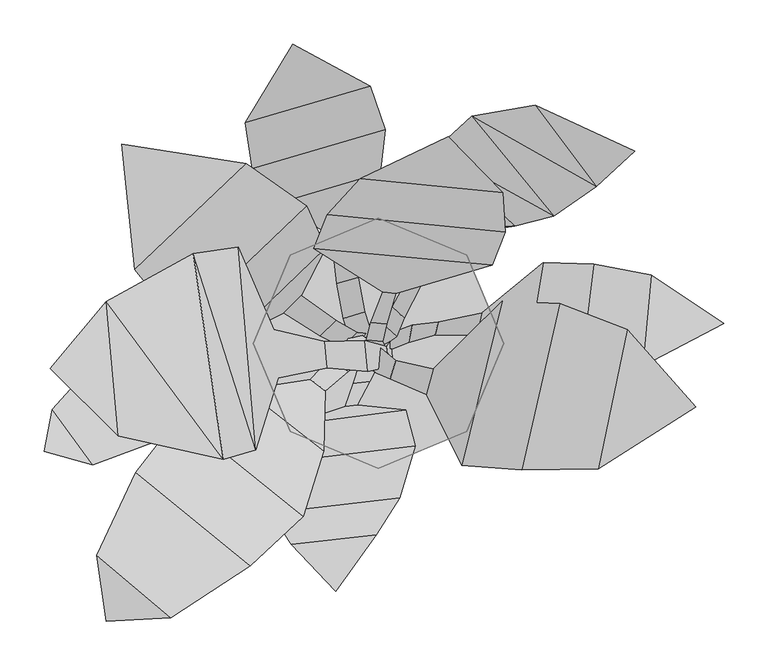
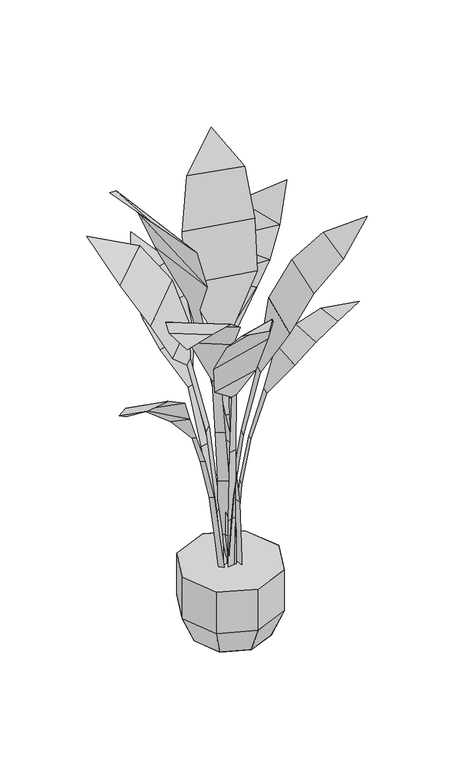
"""IFC4 building model written with IfcOpenShell, lengths in millimetres: geographic element geometry, Enscape AssetDefinition - Potted Plant 119 Strelitzia Nicolai : Enscape AssetDefinition - Potted Plant 119 Strelitzia Nicolai 4."""

from ifc_helpers import new_model, si_unit, origin, place, context, project, spatial, triangles, source, transform, mapped, element, save


def geographic_element_a0fb3aef(model_context):
    return source(origin(), model_context, "Body", "Tessellation", [
        triangles([(-35.7844527, -4.039384, 185.1010563), (-378.3896579, -122.8680817, 865.0391321), (-5.4514109, 10.4274022, 187.9342954), (-290.8632598, 225.5526206, 1182.0705803), (-15.8369637, -7.0802211, 190.397608), (-97.0054797, 338.5925958, 1060.5148458), (5.734318, -3.2500886, 190.2812634), (290.1710419, 217.3123351, 1159.4211634), (3.3346262, -5.2923794, 188.1276521), (390.875233, 22.1228684, 865.5354681), (-16.7559949, -17.4707972, 184.3904347), (-48.4173617, -280.9339059, 1109.8269522), (-4.3038769, -7.0057281, 197.7121688), (-308.0586674, -315.0049367, 1163.7217003), (14.4550679, 4.472115, 185.5003052), (-371.2868211, -28.7896081, 1500.0000114), (6.9923353, -18.3245401, 176.6539883), (78.7880688, 234.0859115, 1385.9874939), (-7.1965652, -0.0309692, 182.1782332), (359.2892249, -72.5800129, 1197.5870024), (75.3245493, -75.3245493, 0.0), (106.5255654, 0.0, 0.0), (0.0, -106.5255654, 0.0), (100.1023837, -100.1023837, 208.9791228), (0.0, -141.5667586, 80.9165726), (141.5667586, 0.0, 208.9791228), (100.1023837, -100.1023837, 80.9165726), (0.0, 141.5667586, 208.9791228), (0.0, -141.5667586, 208.9791228), (100.1023837, 100.1023837, 208.9791228), (141.5667586, 0.0, 80.9165726), (100.1023837, 100.1023837, 80.9165726), (0.0, 141.5667586, 80.9165726), (75.3245493, 75.3245493, 0.0), (0.0, 106.5255654, 0.0), (-100.1023837, 100.1023837, 208.9791228), (-141.5667586, 0.0, 208.9791228), (-75.3245493, 75.3245493, 0.0), (-106.5255654, 0.0, 0.0), (-100.1023837, 100.1023837, 80.9165726), (-75.3245493, -75.3245493, 0.0), (-100.1023837, -100.1023837, 80.9165726), (-141.5667586, 0.0, 80.9165726), (-100.1023837, -100.1023837, 208.9791228), (248.5426236, -142.2187991, 1144.9175428), (281.4343841, 15.7047157, 1122.6984776), (204.9631433, 44.8416806, 1045.5015907), (162.1721324, -143.3127549, 1068.6664558), (140.3430688, 47.6816417, 949.5397156), (94.1420825, -138.6815968, 966.8548651), (61.9307992, -28.9854673, 809.588447), (19.5524244, -19.7633513, 619.7139902), (53.7900943, -58.0638432, 810.0479393), (-0.6352865, -2.3385906, 435.5101539), (-9.0697816, -31.1323839, 434.1374906), (13.5201345, -40.5804899, 619.1933098), (-17.1719862, -24.5660832, 261.2040237), (-4.8454193, 17.1686355, 264.914444), (-20.596172, 186.4159833, 1298.9949841), (140.6351749, 170.3396208, 1282.8533821), (143.7597116, 125.9825718, 1146.1806925), (-58.2680686, 145.514074, 1164.4941822), (-73.4103174, 107.0403232, 1027.8181498), (128.9229719, 88.2855632, 1012.2706976), (4.9425121, 57.6771435, 845.6717823), (19.3925572, 56.4048965, 844.8414551), (-8.5416315, 23.5005755, 648.8517466), (9.2857278, 22.0132185, 648.2909523), (-13.731058, 3.4099561, 479.0243946), (4.7575335, 1.9225995, 478.9072143), (-19.3883741, -8.6646697, 301.3701766), (-10.5445826, -16.9585499, 176.1040764), (10.4968736, -11.0183284, 301.8640237), (-294.43895, -105.4065022, 1431.5990993), (-308.0770529, 46.9057352, 1438.1128006), (-175.7182169, -131.8390821, 1308.4247864), (-138.7602893, -121.2124778, 1181.5959), (-209.9391659, 101.5119088, 1298.6569233), (-113.2031919, -39.6187754, 1052.6160547), (-158.6249107, 108.9394896, 1172.759012), (-57.8495667, -28.2681555, 815.4843081), (-60.7280247, 1.8430839, 814.6137943), (-118.4018209, 15.6519845, 1050.7176968), (-11.9842294, -32.2045863, 594.52265), (-15.3833054, 2.8625555, 593.7459532), (11.9214551, -26.9096947, 404.0572409), (17.7126895, -28.0681087, 184.5980165), (9.6037902, -3.5246259, 403.935882), (-235.1999605, -311.0409345, 1182.8321617), (-318.714594, -240.6279359, 1174.3390755), (-274.6086561, -146.3075576, 1136.1650974), (-145.1826171, -252.5125302, 1148.3886246), (-84.9802326, -196.0072038, 1084.6415709), (-61.8922977, -121.8795791, 977.0412346), (-150.9177685, -52.2441494, 971.9347149), (-225.5116166, -82.7755525, 1072.7510176), (-60.2969691, -54.2353796, 822.5544434), (-34.151456, -32.1100018, 638.9424677), (-77.1517315, -41.17895, 821.8605904), (-53.9717283, -16.7894741, 638.2595152), (-15.0962136, -19.0904, 474.4551968), (8.9676666, -11.9850685, 294.2070964), (-27.349959, 16.0244523, 293.4931139), (-38.4411038, -1.0161234, 473.4766954), (-2.3603528, -217.377629, 1093.3045595), (-98.8686381, -228.08457, 1079.7910675), (24.0680667, -175.132297, 1051.2023329), (-121.9381693, -192.144449, 1031.7085373), (41.8368359, -116.4381962, 953.9917694), (30.6753782, -75.7037185, 837.7377462), (-127.3954398, -136.544736, 932.0815516), (-24.2321169, -70.0639737, 776.3602427), (-99.7391337, -92.3483875, 824.0309521), (-37.5731335, -71.8099655, 775.14818), (-9.6925123, -43.2999188, 585.6462296), (-28.5510621, -45.8201365, 584.3278871), (1.4178858, -21.6516331, 358.2529873), (-21.6148053, -24.8021176, 357.4478039), (0.6093393, -15.075288, 184.5025826), (308.8278791, 77.3969655, 839.7223635), (299.0885027, -25.9571865, 864.4507959), (243.8880567, 89.8114239, 804.4316397), (227.8610916, -39.0546292, 833.3493513), (186.5314741, 91.0978915, 760.429529), (164.328269, -42.3741895, 786.0535463), (116.6081167, 33.9882438, 682.8567204), (111.4990445, 8.7408381, 686.4023615), (67.7161792, 24.1760384, 558.7532853), (38.4377565, 20.8648488, 434.0579896), (64.5288646, 9.4907946, 560.2599157), (34.0786384, 0.8462116, 436.0492561), (20.3258169, 13.6900471, 293.7952756), (7.7280626, 14.0499577, 187.7518211), (15.7725134, -6.5880625, 294.6548707), (177.5613094, 269.3380476, 1103.9728764), (105.6383376, 257.2600239, 1013.2465828), (246.4392272, 177.1419672, 1059.5162876), (198.4947882, 143.8325179, 988.7132692), (63.4482893, 218.8909088, 931.9860632), (70.8348569, 132.0809913, 813.2863317), (154.2540838, 132.6501426, 925.2180897), (35.4345854, 77.3676704, 656.3605179), (48.4575391, 65.8387729, 657.7650106), (82.3938897, 121.3087473, 813.6227938), (15.5147143, 40.8952055, 502.033637), (3.0793397, 23.5733953, 325.1009411), (29.4048072, 28.4137885, 503.0112662), (-8.935861, 10.1570494, 190.5398958), (20.5015875, 7.6996044, 325.0757973), (-150.7210781, 249.7512707, 973.7175276), (-9.5452, 291.3252956, 969.6889944), (-142.9436368, 197.6552682, 891.1661711), (7.8042299, 242.0382786, 886.8515362), (-115.4229238, 158.251605, 810.6657068), (1.8137888, 192.7194685, 807.2263819), (-53.2159106, 121.6577722, 694.5455418), (-46.9819024, 67.5663564, 539.4687066), (-37.1906192, 126.3475023, 694.0290762), (-40.0757787, 28.2807093, 399.1925305), (-15.4067426, 35.5341932, 398.5229493), (-22.7907964, 74.6432227, 538.6843795), (-31.475552, 1.6430399, 257.9011911), (-6.8969173, 8.9760356, 257.7706032), (-275.8038774, 83.3321682, 1109.4008881), (-149.4329209, 203.1058621, 1117.2277359), (-223.724589, 18.7003552, 1005.4190083), (-59.4264781, 107.5065375, 903.3680426), (-80.9425248, 155.3538895, 1015.5108341), (-107.4454402, 34.1832673, 834.5938974), (-87.1422191, 53.7172744, 836.1875502), (-167.5373391, 3.4375775, 894.7704569), (-66.0689505, 7.9013232, 628.9728727), (-47.6314131, 25.5010166, 629.9715036), (-41.2819006, -4.4453307, 378.7252842), (-24.022028, 12.0302659, 379.6828202), (-27.4445389, -10.5956412, 186.4243403), (-323.6704688, -137.9542611, 872.0590525), (-245.7294595, -109.1705075, 858.0837427), (-317.5402471, -17.9236153, 806.0889513), (-369.1323741, -75.0617246, 835.5908569), (-185.9522761, -89.7980345, 819.939632), (-262.0786796, -0.4185023, 770.9305595), (-147.2592255, -48.5311992, 730.672261), (-112.620633, -20.608728, 643.9268291), (-181.9982479, -11.4276228, 712.2958391), (-83.2986946, -16.2437487, 557.4634295), (-120.4934991, -13.0555962, 641.1471296), (-92.6915533, -7.6226003, 555.2596395), (-55.1468792, -13.857447, 433.737406), (-65.6261768, -4.3942738, 432.0014291), (-38.6687698, -13.6900471, 293.1357229), (-48.1026507, -5.2337893, 292.0861321), (-23.4905311, -15.10542, 186.883869)], [[193, 1, 192], [191, 193, 192], [191, 192, 190], [189, 191, 190], [189, 190, 188], [186, 189, 188], [186, 188, 187], [184, 186, 187], [184, 187, 185], [183, 184, 185], [183, 185, 182], [181, 183, 182], [181, 182, 179], [178, 181, 179], [178, 179, 180], [177, 178, 180], [177, 180, 2], [176, 3, 175], [174, 176, 175], [174, 175, 173], [172, 174, 173], [172, 173, 170], [169, 172, 170], [170, 167, 171], [171, 169, 170], [171, 167, 168], [166, 171, 168], [166, 168, 165], [164, 166, 165], [164, 165, 4], [162, 5, 163], [162, 163, 160], [159, 162, 160], [159, 160, 161], [157, 159, 161], [157, 161, 158], [156, 157, 158], [156, 158, 155], [154, 156, 155], [154, 155, 153], [152, 154, 153], [152, 153, 151], [150, 152, 151], [150, 151, 6], [148, 7, 149], [146, 148, 149], [146, 149, 147], [145, 146, 147], [145, 147, 143], [142, 145, 143], [142, 143, 144], [140, 142, 144], [140, 144, 141], [139, 140, 141], [139, 141, 138], [136, 139, 138], [136, 138, 137], [135, 136, 137], [135, 137, 8], [133, 9, 134], [132, 133, 134], [132, 134, 131], [129, 132, 131], [129, 131, 130], [128, 129, 130], [128, 130, 127], [126, 128, 127], [126, 127, 125], [124, 126, 125], [124, 125, 123], [122, 124, 123], [122, 123, 121], [120, 122, 121], [120, 121, 10], [119, 11, 118], [117, 119, 118], [117, 118, 116], [115, 117, 116], [115, 116, 114], [112, 115, 114], [114, 113, 110], [110, 112, 114], [110, 113, 111], [109, 110, 111], [109, 111, 108], [107, 109, 108], [108, 106, 105], [105, 107, 108], [105, 106, 12], [102, 13, 103], [102, 103, 104], [101, 102, 104], [101, 104, 100], [98, 101, 100], [98, 100, 99], [97, 98, 99], [97, 99, 95], [94, 97, 95], [94, 95, 96], [93, 94, 96], [93, 96, 91], [92, 93, 91], [92, 91, 90], [89, 92, 90], [89, 90, 14], [87, 15, 88], [86, 87, 88], [86, 88, 85], [84, 86, 85], [84, 85, 82], [81, 84, 82], [81, 82, 83], [79, 81, 83], [79, 83, 80], [77, 79, 80], [77, 80, 78], [76, 77, 78], [76, 78, 75], [74, 76, 75], [74, 75, 16], [72, 17, 73], [71, 72, 73], [71, 73, 70], [69, 71, 70], [69, 70, 68], [67, 69, 68], [67, 68, 66], [65, 67, 66], [65, 66, 64], [63, 65, 64], [63, 64, 61], [62, 63, 61], [62, 61, 60], [59, 62, 60], [59, 60, 18], [58, 19, 57], [58, 57, 55], [54, 58, 55], [54, 55, 56], [52, 54, 56], [52, 56, 53], [51, 52, 53], [51, 53, 50], [49, 51, 50], [49, 50, 48], [47, 49, 48], [47, 48, 45], [46, 47, 45], [46, 45, 20], [44, 37, 43], [41, 42, 43], [42, 44, 43], [39, 41, 43], [39, 43, 40], [43, 37, 40], [38, 39, 40], [37, 36, 40], [38, 40, 33], [40, 36, 33], [39, 38, 35], [35, 38, 33], [39, 35, 22], [35, 34, 22], [35, 33, 32], [34, 35, 32], [36, 28, 33], [28, 36, 37], [33, 28, 32], [28, 30, 32], [34, 32, 31], [32, 30, 31], [22, 34, 31], [30, 26, 31], [26, 30, 28], [29, 44, 42], [26, 28, 29], [28, 37, 29], [37, 44, 29], [24, 26, 29], [26, 24, 27], [22, 31, 27], [31, 26, 27], [24, 29, 25], [27, 24, 25], [25, 29, 42], [23, 25, 42], [23, 39, 22], [23, 41, 39], [41, 23, 42], [21, 27, 25], [21, 22, 27], [23, 21, 25], [21, 23, 22]], closed=False),
    ])


if __name__ == "__main__":
    model = new_model("IFC4")
    model_context = context("Model", 3, world=origin())
    ifc_project = project(units=[si_unit("LENGTHUNIT", "METRE", prefix="MILLI")], contexts=[model_context])
    site = spatial("IfcSite", under=ifc_project)
    building = spatial("IfcBuilding", under=site)
    placement = place(None, origin())
    geographic_element_shape = geographic_element_a0fb3aef(model_context)
    element("IfcGeographicElement", 1, ObjectType="Enscape AssetDefinition - Potted Plant 119 Strelitzia Nicolai : Enscape AssetDefinition - Potted Plant 119 Strelitzia Nicolai 4", at=placement, inside=building, context=model_context, shape_type="MappedRepresentation", body=[
        mapped(geographic_element_shape, transform((0.0, 0.0, 0.0), x_axis=(1.0, 0.0, 0.0), y_axis=(0.0, 1.0, 0.0), z_axis=(0.0, 0.0, 1.0))),
    ])
    save(model, "model.ifc")
